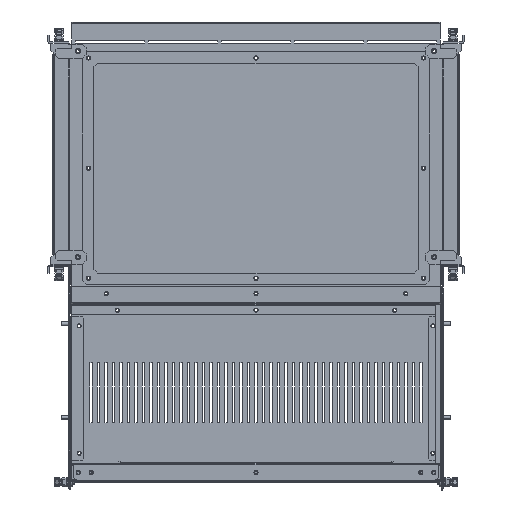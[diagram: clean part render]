
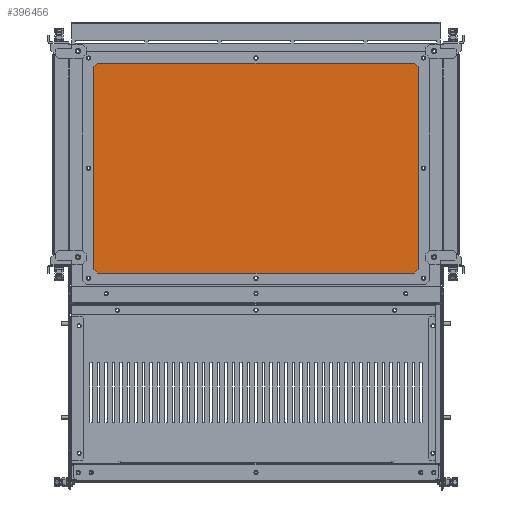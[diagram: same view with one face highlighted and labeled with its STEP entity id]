
A CAD part, top view. The second image highlights one B-rep face of the part: STEP entity #396456.
In plain terms, the highlighted planar face has unit normal (0, 0, 1).
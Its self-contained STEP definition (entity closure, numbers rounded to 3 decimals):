
#394301=CARTESIAN_POINT(' ',(-2.75,-147.,0.));
#394302=VERTEX_POINT(' ',#394301);
#394316=CARTESIAN_POINT(' ',(0.,-147.,0.));
#394321=DIRECTION(' ',(0.,-0.,1.));
#394326=DIRECTION(' ',(-1.,0.,0.));
#394331=AXIS2_PLACEMENT_3D(' ',#394316,#394321,#394326);
#394336=CIRCLE('',#394331,2.75);
#394341=CARTESIAN_POINT(' ',(2.75,-147.,0.));
#394342=VERTEX_POINT(' ',#394341);
#394346=EDGE_CURVE(' ',#394302,#394342,#394336,.T.);
#395441=CARTESIAN_POINT(' ',(0.,-147.,0.));
#395446=DIRECTION(' ',(0.,0.,1.));
#395451=DIRECTION(' ',(1.,0.,0.));
#395456=AXIS2_PLACEMENT_3D(' ',#395441,#395446,#395451);
#395461=CIRCLE('',#395456,2.75);
#395466=EDGE_CURVE(' ',#394342,#394302,#395461,.T.);
#395491=DIRECTION(' ',(-0.,-0.,1.));
#395496=CARTESIAN_POINT(' ',(231.5,-155.,0.));
#395501=DIRECTION(' ',(0.,1.,0.));
#395506=AXIS2_PLACEMENT_3D(' ',#395496,#395491,#395501);
#395511=PLANE('NONE',#395506);
#395516=CARTESIAN_POINT(' ',(226.5,155.,0.));
#395521=DIRECTION(' ',(-1.,0.,0.));
#395526=VECTOR(' ',#395521,1.);
#395531=LINE('',#395516,#395526);
#395536=CARTESIAN_POINT(' ',(226.5,155.,0.));
#395537=VERTEX_POINT(' ',#395536);
#395541=CARTESIAN_POINT(' ',(-226.5,155.,0.));
#395542=VERTEX_POINT(' ',#395541);
#395546=EDGE_CURVE(' ',#395537,#395542,#395531,.T.);
#395551=ORIENTED_EDGE(' ',*,*,#395546,.T.);
#395556=CARTESIAN_POINT(' ',(-226.5,155.,0.));
#395561=DIRECTION(' ',(-0.707,-0.707,0.));
#395566=VECTOR(' ',#395561,1.);
#395571=LINE('',#395556,#395566);
#395576=CARTESIAN_POINT(' ',(-231.5,150.,0.));
#395577=VERTEX_POINT(' ',#395576);
#395581=EDGE_CURVE(' ',#395542,#395577,#395571,.T.);
#395586=ORIENTED_EDGE(' ',*,*,#395581,.T.);
#395591=CARTESIAN_POINT(' ',(-231.5,150.,0.));
#395596=DIRECTION(' ',(0.,-1.,0.));
#395601=VECTOR(' ',#395596,1.);
#395606=LINE('',#395591,#395601);
#395611=CARTESIAN_POINT(' ',(-231.5,-150.,0.));
#395612=VERTEX_POINT(' ',#395611);
#395616=EDGE_CURVE(' ',#395577,#395612,#395606,.T.);
#395621=ORIENTED_EDGE(' ',*,*,#395616,.T.);
#395626=CARTESIAN_POINT(' ',(-231.5,-150.,0.));
#395631=DIRECTION(' ',(0.707,-0.707,0.));
#395636=VECTOR(' ',#395631,1.);
#395641=LINE('',#395626,#395636);
#395646=CARTESIAN_POINT(' ',(-226.5,-155.,0.));
#395647=VERTEX_POINT(' ',#395646);
#395651=EDGE_CURVE(' ',#395612,#395647,#395641,.T.);
#395656=ORIENTED_EDGE(' ',*,*,#395651,.T.);
#395661=CARTESIAN_POINT(' ',(-226.5,-155.,0.));
#395666=DIRECTION(' ',(1.,0.,0.));
#395671=VECTOR(' ',#395666,1.);
#395676=LINE('',#395661,#395671);
#395681=CARTESIAN_POINT(' ',(226.5,-155.,0.));
#395682=VERTEX_POINT(' ',#395681);
#395686=EDGE_CURVE(' ',#395647,#395682,#395676,.T.);
#395691=ORIENTED_EDGE(' ',*,*,#395686,.T.);
#395696=CARTESIAN_POINT(' ',(226.5,-155.,0.));
#395701=DIRECTION(' ',(0.707,0.707,0.));
#395706=VECTOR(' ',#395701,1.);
#395711=LINE('',#395696,#395706);
#395716=CARTESIAN_POINT(' ',(231.5,-150.,0.));
#395717=VERTEX_POINT(' ',#395716);
#395721=EDGE_CURVE(' ',#395682,#395717,#395711,.T.);
#395726=ORIENTED_EDGE(' ',*,*,#395721,.T.);
#395731=CARTESIAN_POINT(' ',(231.5,-150.,0.));
#395736=DIRECTION(' ',(0.,1.,0.));
#395741=VECTOR(' ',#395736,1.);
#395746=LINE('',#395731,#395741);
#395751=CARTESIAN_POINT(' ',(231.5,150.,0.));
#395752=VERTEX_POINT(' ',#395751);
#395756=EDGE_CURVE(' ',#395717,#395752,#395746,.T.);
#395761=ORIENTED_EDGE(' ',*,*,#395756,.T.);
#395766=CARTESIAN_POINT(' ',(231.5,150.,0.));
#395771=DIRECTION(' ',(-0.707,0.707,0.));
#395776=VECTOR(' ',#395771,1.);
#395781=LINE('',#395766,#395776);
#395786=EDGE_CURVE(' ',#395752,#395537,#395781,.T.);
#395791=ORIENTED_EDGE(' ',*,*,#395786,.T.);
#395796=EDGE_LOOP(' ',(#395551,#395586,#395621,#395656,#395691,#395726,#395761,#395791));
#395801=FACE_OUTER_BOUND(' ',#395796,.T.);
#395806=ORIENTED_EDGE(' ',*,*,#395466,.F.);
#395811=ORIENTED_EDGE(' ',*,*,#394346,.F.);
#395816=EDGE_LOOP(' ',(#395806,#395811));
#395821=FACE_BOUND(' ',#395816,.T.);
#395826=CARTESIAN_POINT(' ',(-223.5,0.,0.));
#395831=DIRECTION(' ',(0.,0.,1.));
#395836=DIRECTION(' ',(1.,0.,0.));
#395841=AXIS2_PLACEMENT_3D(' ',#395826,#395831,#395836);
#395846=CIRCLE('',#395841,2.75);
#395851=CARTESIAN_POINT(' ',(-220.75,0.,0.));
#395852=VERTEX_POINT(' ',#395851);
#395856=CARTESIAN_POINT(' ',(-226.25,0.,0.));
#395857=VERTEX_POINT(' ',#395856);
#395861=EDGE_CURVE(' ',#395852,#395857,#395846,.T.);
#395866=ORIENTED_EDGE(' ',*,*,#395861,.F.);
#395871=CARTESIAN_POINT(' ',(-223.5,0.,0.));
#395876=DIRECTION(' ',(0.,-0.,1.));
#395881=DIRECTION(' ',(-1.,0.,0.));
#395886=AXIS2_PLACEMENT_3D(' ',#395871,#395876,#395881);
#395891=CIRCLE('',#395886,2.75);
#395896=EDGE_CURVE(' ',#395857,#395852,#395891,.T.);
#395901=ORIENTED_EDGE(' ',*,*,#395896,.F.);
#395906=EDGE_LOOP(' ',(#395866,#395901));
#395911=FACE_BOUND(' ',#395906,.T.);
#395916=CARTESIAN_POINT(' ',(-223.5,-147.,0.));
#395921=DIRECTION(' ',(0.,0.,1.));
#395926=DIRECTION(' ',(1.,0.,0.));
#395931=AXIS2_PLACEMENT_3D(' ',#395916,#395921,#395926);
#395936=CIRCLE('',#395931,2.75);
#395941=CARTESIAN_POINT(' ',(-220.75,-147.,0.));
#395942=VERTEX_POINT(' ',#395941);
#395946=CARTESIAN_POINT(' ',(-226.25,-147.,0.));
#395947=VERTEX_POINT(' ',#395946);
#395951=EDGE_CURVE(' ',#395942,#395947,#395936,.T.);
#395956=ORIENTED_EDGE(' ',*,*,#395951,.F.);
#395961=CARTESIAN_POINT(' ',(-223.5,-147.,0.));
#395966=DIRECTION(' ',(0.,-0.,1.));
#395971=DIRECTION(' ',(-1.,0.,0.));
#395976=AXIS2_PLACEMENT_3D(' ',#395961,#395966,#395971);
#395981=CIRCLE('',#395976,2.75);
#395986=EDGE_CURVE(' ',#395947,#395942,#395981,.T.);
#395991=ORIENTED_EDGE(' ',*,*,#395986,.F.);
#395996=EDGE_LOOP(' ',(#395956,#395991));
#396001=FACE_BOUND(' ',#395996,.T.);
#396006=CARTESIAN_POINT(' ',(223.5,-147.,0.));
#396011=DIRECTION(' ',(0.,0.,1.));
#396016=DIRECTION(' ',(1.,0.,0.));
#396021=AXIS2_PLACEMENT_3D(' ',#396006,#396011,#396016);
#396026=CIRCLE('',#396021,2.75);
#396031=CARTESIAN_POINT(' ',(226.25,-147.,0.));
#396032=VERTEX_POINT(' ',#396031);
#396036=CARTESIAN_POINT(' ',(220.75,-147.,0.));
#396037=VERTEX_POINT(' ',#396036);
#396041=EDGE_CURVE(' ',#396032,#396037,#396026,.T.);
#396046=ORIENTED_EDGE(' ',*,*,#396041,.F.);
#396051=CARTESIAN_POINT(' ',(223.5,-147.,0.));
#396056=DIRECTION(' ',(0.,-0.,1.));
#396061=DIRECTION(' ',(-1.,0.,0.));
#396066=AXIS2_PLACEMENT_3D(' ',#396051,#396056,#396061);
#396071=CIRCLE('',#396066,2.75);
#396076=EDGE_CURVE(' ',#396037,#396032,#396071,.T.);
#396081=ORIENTED_EDGE(' ',*,*,#396076,.F.);
#396086=EDGE_LOOP(' ',(#396046,#396081));
#396091=FACE_BOUND(' ',#396086,.T.);
#396096=CARTESIAN_POINT(' ',(223.5,147.,0.));
#396101=DIRECTION(' ',(0.,0.,1.));
#396106=DIRECTION(' ',(1.,0.,0.));
#396111=AXIS2_PLACEMENT_3D(' ',#396096,#396101,#396106);
#396116=CIRCLE('',#396111,2.75);
#396121=CARTESIAN_POINT(' ',(226.25,147.,0.));
#396122=VERTEX_POINT(' ',#396121);
#396126=CARTESIAN_POINT(' ',(220.75,147.,0.));
#396127=VERTEX_POINT(' ',#396126);
#396131=EDGE_CURVE(' ',#396122,#396127,#396116,.T.);
#396136=ORIENTED_EDGE(' ',*,*,#396131,.F.);
#396141=CARTESIAN_POINT(' ',(223.5,147.,0.));
#396146=DIRECTION(' ',(0.,-0.,1.));
#396151=DIRECTION(' ',(-1.,0.,0.));
#396156=AXIS2_PLACEMENT_3D(' ',#396141,#396146,#396151);
#396161=CIRCLE('',#396156,2.75);
#396166=EDGE_CURVE(' ',#396127,#396122,#396161,.T.);
#396171=ORIENTED_EDGE(' ',*,*,#396166,.F.);
#396176=EDGE_LOOP(' ',(#396136,#396171));
#396181=FACE_BOUND(' ',#396176,.T.);
#396186=CARTESIAN_POINT(' ',(0.,147.,0.));
#396191=DIRECTION(' ',(0.,0.,1.));
#396196=DIRECTION(' ',(1.,0.,0.));
#396201=AXIS2_PLACEMENT_3D(' ',#396186,#396191,#396196);
#396206=CIRCLE('',#396201,2.75);
#396211=CARTESIAN_POINT(' ',(2.75,147.,0.));
#396212=VERTEX_POINT(' ',#396211);
#396216=CARTESIAN_POINT(' ',(-2.75,147.,0.));
#396217=VERTEX_POINT(' ',#396216);
#396221=EDGE_CURVE(' ',#396212,#396217,#396206,.T.);
#396226=ORIENTED_EDGE(' ',*,*,#396221,.F.);
#396231=CARTESIAN_POINT(' ',(0.,147.,0.));
#396236=DIRECTION(' ',(0.,-0.,1.));
#396241=DIRECTION(' ',(-1.,0.,0.));
#396246=AXIS2_PLACEMENT_3D(' ',#396231,#396236,#396241);
#396251=CIRCLE('',#396246,2.75);
#396256=EDGE_CURVE(' ',#396217,#396212,#396251,.T.);
#396261=ORIENTED_EDGE(' ',*,*,#396256,.F.);
#396266=EDGE_LOOP(' ',(#396226,#396261));
#396271=FACE_BOUND(' ',#396266,.T.);
#396276=CARTESIAN_POINT(' ',(-223.5,147.,0.));
#396281=DIRECTION(' ',(0.,0.,1.));
#396286=DIRECTION(' ',(1.,0.,0.));
#396291=AXIS2_PLACEMENT_3D(' ',#396276,#396281,#396286);
#396296=CIRCLE('',#396291,2.75);
#396301=CARTESIAN_POINT(' ',(-220.75,147.,0.));
#396302=VERTEX_POINT(' ',#396301);
#396306=CARTESIAN_POINT(' ',(-226.25,147.,0.));
#396307=VERTEX_POINT(' ',#396306);
#396311=EDGE_CURVE(' ',#396302,#396307,#396296,.T.);
#396316=ORIENTED_EDGE(' ',*,*,#396311,.F.);
#396321=CARTESIAN_POINT(' ',(-223.5,147.,0.));
#396326=DIRECTION(' ',(0.,-0.,1.));
#396331=DIRECTION(' ',(-1.,0.,0.));
#396336=AXIS2_PLACEMENT_3D(' ',#396321,#396326,#396331);
#396341=CIRCLE('',#396336,2.75);
#396346=EDGE_CURVE(' ',#396307,#396302,#396341,.T.);
#396351=ORIENTED_EDGE(' ',*,*,#396346,.F.);
#396356=EDGE_LOOP(' ',(#396316,#396351));
#396361=FACE_BOUND(' ',#396356,.T.);
#396366=CARTESIAN_POINT(' ',(223.5,0.,0.));
#396371=DIRECTION(' ',(0.,0.,1.));
#396376=DIRECTION(' ',(1.,0.,0.));
#396381=AXIS2_PLACEMENT_3D(' ',#396366,#396371,#396376);
#396386=CIRCLE('',#396381,2.75);
#396391=CARTESIAN_POINT(' ',(226.25,0.,0.));
#396392=VERTEX_POINT(' ',#396391);
#396396=CARTESIAN_POINT(' ',(220.75,0.,0.));
#396397=VERTEX_POINT(' ',#396396);
#396401=EDGE_CURVE(' ',#396392,#396397,#396386,.T.);
#396406=ORIENTED_EDGE(' ',*,*,#396401,.F.);
#396411=CARTESIAN_POINT(' ',(223.5,0.,0.));
#396416=DIRECTION(' ',(0.,-0.,1.));
#396421=DIRECTION(' ',(-1.,0.,0.));
#396426=AXIS2_PLACEMENT_3D(' ',#396411,#396416,#396421);
#396431=CIRCLE('',#396426,2.75);
#396436=EDGE_CURVE(' ',#396397,#396392,#396431,.T.);
#396441=ORIENTED_EDGE(' ',*,*,#396436,.F.);
#396446=EDGE_LOOP(' ',(#396406,#396441));
#396451=FACE_BOUND(' ',#396446,.T.);
#396456=ADVANCED_FACE('NONE',(#395801,#395821,#395911,#396001,#396091,#396181,#396271,#396361,#396451),#395511,.T.);
